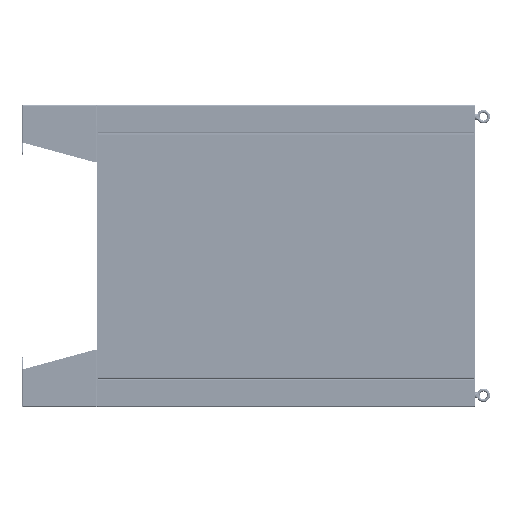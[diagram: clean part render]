
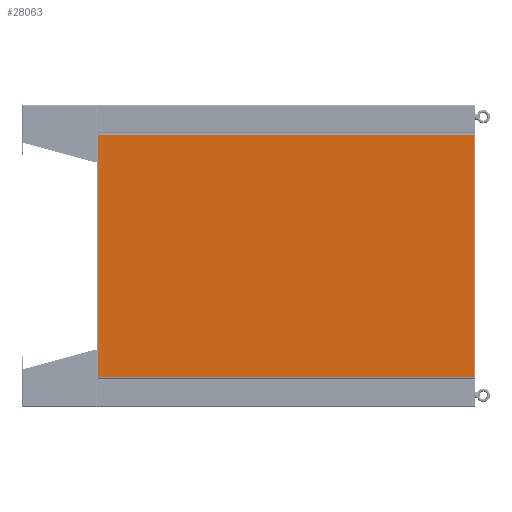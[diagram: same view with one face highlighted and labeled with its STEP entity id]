
A CAD part, left-side view. The second image highlights one B-rep face of the part: STEP entity #28063.
In plain terms, the highlighted planar face has unit normal (-1, 0, 0) as drawn and (0, 1, 0) by its records, which use the part's own axes.
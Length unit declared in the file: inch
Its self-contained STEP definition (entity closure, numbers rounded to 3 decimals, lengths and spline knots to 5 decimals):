
#26712=DIRECTION('',(-1.,0.,0.));
#26713=VECTOR('',#26712,38.622);
#26714=CARTESIAN_POINT('',(19.311,0.,29.896));
#26715=LINE('',#26714,#26713);
#26755=DIRECTION('',(0.,0.,1.));
#26756=VECTOR('',#26755,59.792);
#26757=CARTESIAN_POINT('',(19.311,0.,-29.896));
#26758=LINE('',#26757,#26756);
#26842=DIRECTION('',(-1.,0.,0.));
#26843=VECTOR('',#26842,38.622);
#26844=CARTESIAN_POINT('',(19.311,0.,-29.896));
#26845=LINE('',#26844,#26843);
#26885=DIRECTION('',(0.,0.,-1.));
#26886=VECTOR('',#26885,59.792);
#26887=CARTESIAN_POINT('',(-19.311,0.,29.896));
#26888=LINE('',#26887,#26886);
#27860=CARTESIAN_POINT('',(-19.311,0.,-29.896));
#27861=VERTEX_POINT('',#27860);
#27862=CARTESIAN_POINT('',(-19.311,0.,29.896));
#27863=VERTEX_POINT('',#27862);
#27876=CARTESIAN_POINT('',(19.311,0.,29.896));
#27877=VERTEX_POINT('',#27876);
#27878=CARTESIAN_POINT('',(19.311,0.,-29.896));
#27879=VERTEX_POINT('',#27878);
#28048=CARTESIAN_POINT('',(19.5,0.,29.896));
#28049=DIRECTION('',(0.,1.,0.));
#28050=DIRECTION('',(-1.,0.,0.));
#28051=AXIS2_PLACEMENT_3D('',#28048,#28049,#28050);
#28052=PLANE('',#28051);
#28054=ORIENTED_EDGE('',*,*,#28053,.T.);
#28056=ORIENTED_EDGE('',*,*,#28055,.T.);
#28058=ORIENTED_EDGE('',*,*,#28057,.F.);
#28060=ORIENTED_EDGE('',*,*,#28059,.T.);
#28061=EDGE_LOOP('',(#28054,#28056,#28058,#28060));
#28062=FACE_OUTER_BOUND('',#28061,.F.);
#28053=EDGE_CURVE('',#27877,#27863,#26715,.T.);
#28055=EDGE_CURVE('',#27863,#27861,#26888,.T.);
#28057=EDGE_CURVE('',#27879,#27861,#26845,.T.);
#28059=EDGE_CURVE('',#27879,#27877,#26758,.T.);
#28063=ADVANCED_FACE('',(#28062),#28052,.T.);
